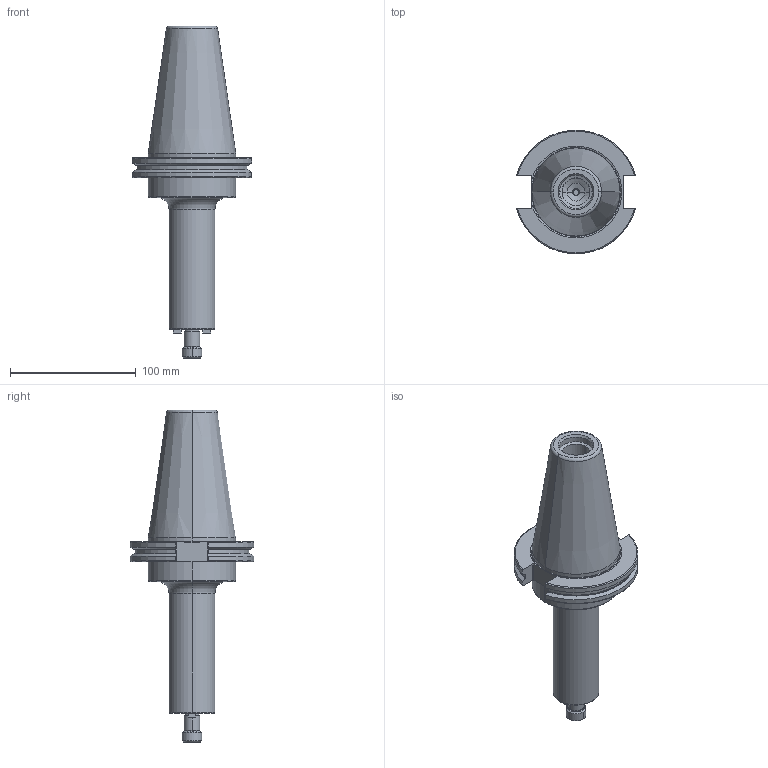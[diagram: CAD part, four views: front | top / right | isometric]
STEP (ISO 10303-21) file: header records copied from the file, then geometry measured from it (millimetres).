
FILE_DESCRIPTION (( 'STEP AP214' ), '1' );
FILE_NAME ('RC5SM05005500.STEP', '2019-02-08T19:15:48', ( '' ), ( '' ), 'SwSTEP 2.0', 'SolidWorks 2019', '' );
FILE_SCHEMA (( 'AUTOMOTIVE_DESIGN' ));
Length unit declared in the file: inch
Products named in the file (1): RC5SM05005500
Bounding box: 94.95 x 98.05 x 264.27 mm (x, y, z)
Volume: 472392.8 mm3; surface area: 67203.1 mm2
Topology: 1 solids, 4 shells, 240 faces, 618 edges, 374 vertices
Faces by surface type: plane 79, cone 71, cylinder 60, torus 30
Entity records: 9286 total; most frequent: CARTESIAN_POINT 1919, DIRECTION 1261, ORIENTED_EDGE 1212, EDGE_CURVE 606, AXIS2_PLACEMENT_3D 494, VERTEX_POINT 374, LINE 273, VECTOR 273
